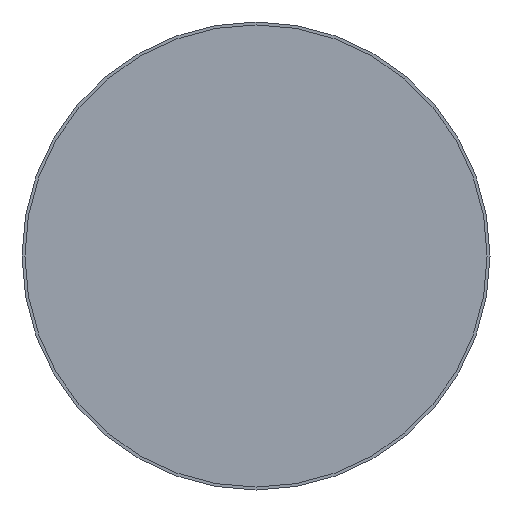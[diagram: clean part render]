
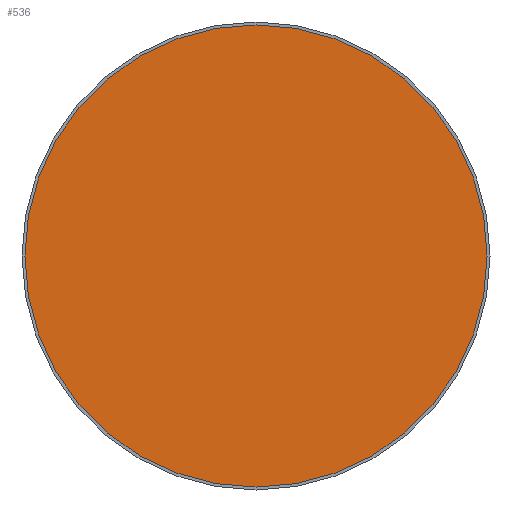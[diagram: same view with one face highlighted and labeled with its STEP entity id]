
A CAD part, front view. The second image highlights one B-rep face of the part: STEP entity #536.
In plain terms, the highlighted planar face has unit normal (0, -1, 0).
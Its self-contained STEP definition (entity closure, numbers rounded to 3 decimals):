
#1=CARTESIAN_POINT('',(0.,0.,0.));
#2=DIRECTION('',(0.,-1.,0.));
#3=DIRECTION('',(1.,0.,0.));
#4=AXIS2_PLACEMENT_3D('',#1,#2,#3);
#14=CARTESIAN_POINT('',(0.,0.,0.));
#15=DIRECTION('',(0.,1.,0.));
#16=DIRECTION('',(1.,0.,0.));
#17=AXIS2_PLACEMENT_3D('',#14,#15,#16);
#405=CARTESIAN_POINT('',(39.5,0.,0.));
#407=VERTEX_POINT('',#405);
#419=CARTESIAN_POINT('',(-39.5,0.,0.));
#421=VERTEX_POINT('',#419);
#525=CARTESIAN_POINT('',(0.,0.,0.));
#526=DIRECTION('',(0.,-1.,0.));
#527=DIRECTION('',(-1.,0.,0.));
#528=AXIS2_PLACEMENT_3D('',#525,#526,#527);
#529=PLANE('',#528);
#531=ORIENTED_EDGE('',*,*,#530,.F.);
#533=ORIENTED_EDGE('',*,*,#532,.T.);
#534=EDGE_LOOP('',(#531,#533));
#535=FACE_OUTER_BOUND('',#534,.F.);
#536=ADVANCED_FACE('',(#535),#529,.T.);
#5=CIRCLE('',#4,39.5);
#18=CIRCLE('',#17,39.5);
#530=EDGE_CURVE('',#407,#421,#5,.T.);
#532=EDGE_CURVE('',#407,#421,#18,.T.);
